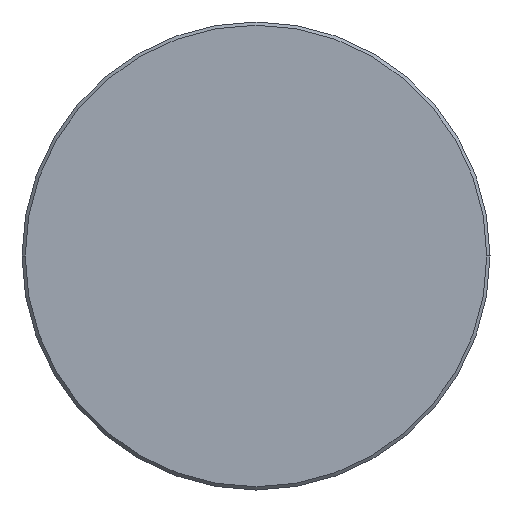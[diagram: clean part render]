
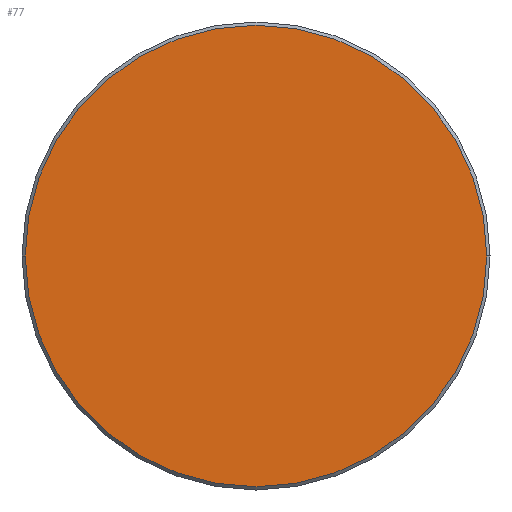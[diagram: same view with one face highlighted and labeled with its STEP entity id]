
A CAD part, left-side view. The second image highlights one B-rep face of the part: STEP entity #77.
In plain terms, the highlighted planar face has unit normal (-1, 0, 0).
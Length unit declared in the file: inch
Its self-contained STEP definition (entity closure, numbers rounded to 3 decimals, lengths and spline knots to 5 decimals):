
#5 = DIRECTION ( 'NONE',  ( -1., 0., 0. ) ) ;
#14 = VERTEX_POINT ( 'NONE', #117 ) ;
#29 = EDGE_CURVE ( 'NONE', #232, #14, #311, .T. ) ;
#42 = DIRECTION ( 'NONE',  ( 0., -1., 0. ) ) ;
#64 = DIRECTION ( 'NONE',  ( 0., -1., 0. ) ) ;
#70 = FACE_OUTER_BOUND ( 'NONE', #206, .T. ) ;
#74 = PLANE ( 'NONE',  #130 ) ;
#77 = ADVANCED_FACE ( 'NONE', ( #70 ), #74, .T. ) ;
#80 = AXIS2_PLACEMENT_3D ( 'NONE', #323, #5, #64 ) ;
#108 = AXIS2_PLACEMENT_3D ( 'NONE', #191, #249, #187 ) ;
#117 = CARTESIAN_POINT ( 'NONE',  ( 0., -0.28506, 0. ) ) ;
#130 = AXIS2_PLACEMENT_3D ( 'NONE', #132, #329, #42 ) ;
#132 = CARTESIAN_POINT ( 'NONE',  ( 0., 0., 0. ) ) ;
#179 = ORIENTED_EDGE ( 'NONE', *, *, #29, .T. ) ;
#187 = DIRECTION ( 'NONE',  ( 0., -1., 0. ) ) ;
#191 = CARTESIAN_POINT ( 'NONE',  ( 0., 0., 0. ) ) ;
#206 = EDGE_LOOP ( 'NONE', ( #179, #228 ) ) ;
#228 = ORIENTED_EDGE ( 'NONE', *, *, #347, .T. ) ;
#232 = VERTEX_POINT ( 'NONE', #256 ) ;
#249 = DIRECTION ( 'NONE',  ( -1., 0., 0. ) ) ;
#256 = CARTESIAN_POINT ( 'NONE',  ( 0., 0.28506, 0. ) ) ;
#311 = CIRCLE ( 'NONE', #108, 0.28506 ) ;
#323 = CARTESIAN_POINT ( 'NONE',  ( 0., 0., 0. ) ) ;
#329 = DIRECTION ( 'NONE',  ( -1., 0., 0. ) ) ;
#347 = EDGE_CURVE ( 'NONE', #14, #232, #381, .T. ) ;
#381 = CIRCLE ( 'NONE', #80, 0.28506 ) ;
